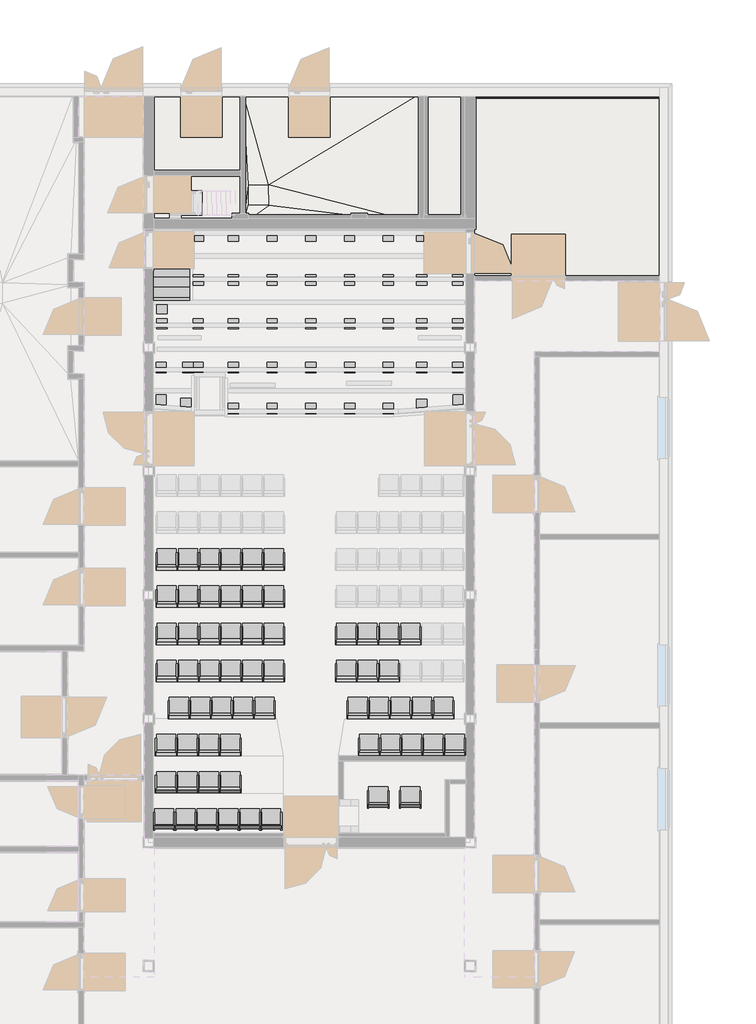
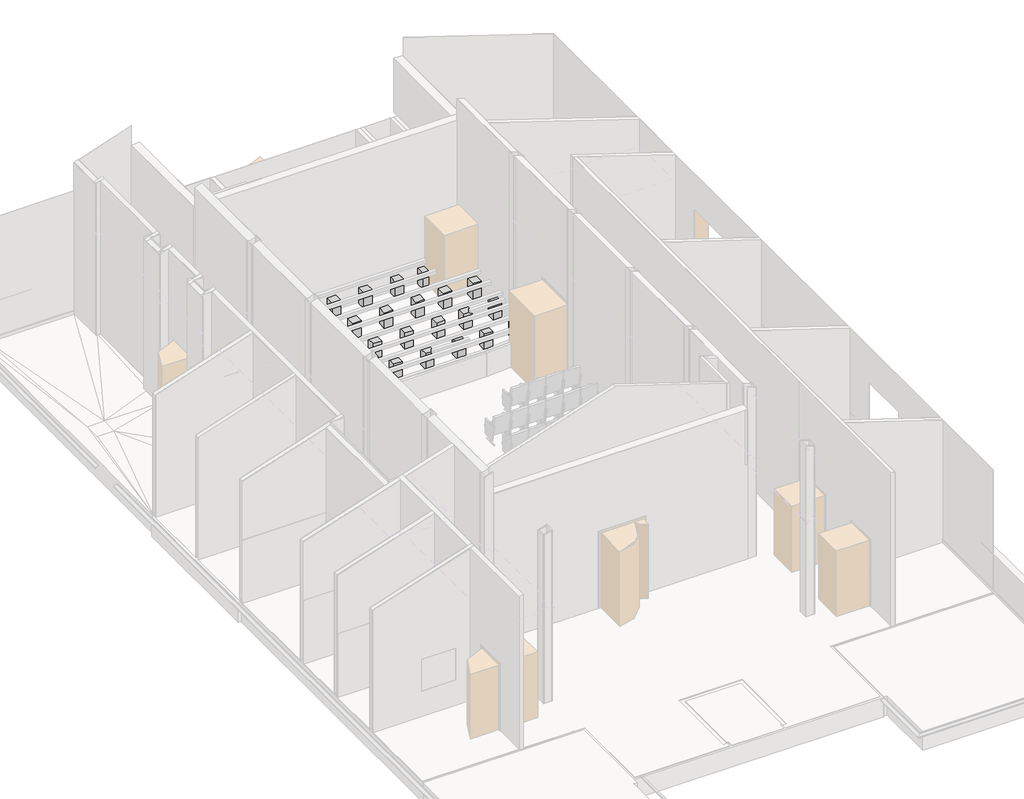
# One storey, part 11 of 12: 62 proxies, 45 columns, 4 slabs, 1 covering, 1 stair.
"""IFC4 building model written with IfcOpenShell, lengths in millimetres."""

from ifc_helpers import new_model, si_unit, frame, origin, place, context, project, spatial, polyline, outline, extrude, faceted_brep, transform, mapped, element, save
from components import mechanical_equipment_249a26df, stair_94473a12

model = new_model("IFC4")

# Units and contexts
model_context = context("Model", 3, world=origin())
ifc_project = project(units=[si_unit("LENGTHUNIT", "METRE", prefix="MILLI")], contexts=[model_context])

# Site, building, storey
site = spatial("IfcSite", under=ifc_project)
building = spatial("IfcBuilding", under=site)
storey = spatial("IfcBuildingStorey", under=building, Name="Этаж 01", Elevation=0.0)

# Proxies
placement = place(None, origin())
mechanical_equipment_shape = mechanical_equipment_249a26df(model_context)
element("IfcBuildingElementProxy", 1, Name="Кресло_для_Зрительного_Зала_откидное : Кресло для зрительного зала", ObjectType="Кресло_для_Зрительного_Зала_откидное : Кресло для зрительного зала", at=placement, inside=storey, context=model_context, shape_type="MappedRepresentation", body=[
    mapped(mechanical_equipment_shape, transform((4935.7752906, 15800.5218566, 0.0), x_axis=(0.0, 1.0, 0.0), y_axis=(-1.0, 0.0, 0.0), z_axis=(0.0, 0.0, 1.0))),
])
element("IfcBuildingElementProxy", 2, Name="Кресло_для_Зрительного_Зала_откидное : Кресло для зрительного зала", ObjectType="Кресло_для_Зрительного_Зала_откидное : Кресло для зрительного зала", at=placement, inside=storey, context=model_context, shape_type="MappedRepresentation", body=[
    mapped(mechanical_equipment_shape, transform((5455.4869141, 15800.5218566, 0.0), x_axis=(0.0, 1.0, 0.0), y_axis=(-1.0, 0.0, 0.0), z_axis=(0.0, 0.0, 1.0))),
])
element("IfcBuildingElementProxy", 3, Name="Кресло_для_Зрительного_Зала_откидное : Кресло для зрительного зала", ObjectType="Кресло_для_Зрительного_Зала_откидное : Кресло для зрительного зала", at=placement, inside=storey, context=model_context, shape_type="MappedRepresentation", body=[
    mapped(mechanical_equipment_shape, transform((5975.1985376, 15800.5218566, 0.0), x_axis=(0.0, 1.0, 0.0), y_axis=(-1.0, 0.0, 0.0), z_axis=(0.0, 0.0, 1.0))),
])
element("IfcBuildingElementProxy", 4, Name="Кресло_для_Зрительного_Зала_откидное : Кресло для зрительного зала", ObjectType="Кресло_для_Зрительного_Зала_откидное : Кресло для зрительного зала", at=placement, inside=storey, context=model_context, shape_type="MappedRepresentation", body=[
    mapped(mechanical_equipment_shape, transform((6494.9101612, 15800.5218566, 0.0), x_axis=(0.0, 1.0, 0.0), y_axis=(-1.0, 0.0, 0.0), z_axis=(0.0, 0.0, 1.0))),
])
element("IfcBuildingElementProxy", 5, Name="Кресло_для_Зрительного_Зала_откидное : Кресло для зрительного зала", ObjectType="Кресло_для_Зрительного_Зала_откидное : Кресло для зрительного зала", at=placement, inside=storey, context=model_context, shape_type="MappedRepresentation", body=[
    mapped(mechanical_equipment_shape, transform((7014.6217847, 15800.5218566, 0.0), x_axis=(0.0, 1.0, 0.0), y_axis=(-1.0, 0.0, 0.0), z_axis=(0.0, 0.0, 1.0))),
])
element("IfcBuildingElementProxy", 6, Name="Кресло_для_Зрительного_Зала_откидное : Кресло для зрительного зала", ObjectType="Кресло_для_Зрительного_Зала_откидное : Кресло для зрительного зала", at=placement, inside=storey, context=model_context, shape_type="MappedRepresentation", body=[
    mapped(mechanical_equipment_shape, transform((7534.3334082, 15800.5218566, 0.0), x_axis=(0.0, 1.0, 0.0), y_axis=(-1.0, 0.0, 0.0), z_axis=(0.0, 0.0, 1.0))),
])
element("IfcBuildingElementProxy", 7, Name="Кресло_для_Зрительного_Зала_откидное : Кресло для зрительного зала", ObjectType="Кресло_для_Зрительного_Зала_откидное : Кресло для зрительного зала", at=placement, inside=storey, context=model_context, shape_type="MappedRepresentation", body=[
    mapped(mechanical_equipment_shape, transform((4935.7752906, 14900.5218566, 0.0), x_axis=(0.0, 1.0, 0.0), y_axis=(-1.0, 0.0, 0.0), z_axis=(0.0, 0.0, 1.0))),
])
element("IfcBuildingElementProxy", 8, Name="Кресло_для_Зрительного_Зала_откидное : Кресло для зрительного зала", ObjectType="Кресло_для_Зрительного_Зала_откидное : Кресло для зрительного зала", at=placement, inside=storey, context=model_context, shape_type="MappedRepresentation", body=[
    mapped(mechanical_equipment_shape, transform((5455.4869141, 14900.5218566, 0.0), x_axis=(0.0, 1.0, 0.0), y_axis=(-1.0, 0.0, 0.0), z_axis=(0.0, 0.0, 1.0))),
])
element("IfcBuildingElementProxy", 9, Name="Кресло_для_Зрительного_Зала_откидное : Кресло для зрительного зала", ObjectType="Кресло_для_Зрительного_Зала_откидное : Кресло для зрительного зала", at=placement, inside=storey, context=model_context, shape_type="MappedRepresentation", body=[
    mapped(mechanical_equipment_shape, transform((5975.1985376, 14900.5218566, 0.0), x_axis=(0.0, 1.0, 0.0), y_axis=(-1.0, 0.0, 0.0), z_axis=(0.0, 0.0, 1.0))),
])
element("IfcBuildingElementProxy", 10, Name="Кресло_для_Зрительного_Зала_откидное : Кресло для зрительного зала", ObjectType="Кресло_для_Зрительного_Зала_откидное : Кресло для зрительного зала", at=placement, inside=storey, context=model_context, shape_type="MappedRepresentation", body=[
    mapped(mechanical_equipment_shape, transform((6494.9101612, 14900.5218566, 0.0), x_axis=(0.0, 1.0, 0.0), y_axis=(-1.0, 0.0, 0.0), z_axis=(0.0, 0.0, 1.0))),
])
element("IfcBuildingElementProxy", 11, Name="Кресло_для_Зрительного_Зала_откидное : Кресло для зрительного зала", ObjectType="Кресло_для_Зрительного_Зала_откидное : Кресло для зрительного зала", at=placement, inside=storey, context=model_context, shape_type="MappedRepresentation", body=[
    mapped(mechanical_equipment_shape, transform((7014.6217847, 14900.5218566, 0.0), x_axis=(0.0, 1.0, 0.0), y_axis=(-1.0, 0.0, 0.0), z_axis=(0.0, 0.0, 1.0))),
])
element("IfcBuildingElementProxy", 12, Name="Кресло_для_Зрительного_Зала_откидное : Кресло для зрительного зала", ObjectType="Кресло_для_Зрительного_Зала_откидное : Кресло для зрительного зала", at=placement, inside=storey, context=model_context, shape_type="MappedRepresentation", body=[
    mapped(mechanical_equipment_shape, transform((7534.3334082, 14900.5218566, 0.0), x_axis=(0.0, 1.0, 0.0), y_axis=(-1.0, 0.0, 0.0), z_axis=(0.0, 0.0, 1.0))),
])
element("IfcBuildingElementProxy", 13, Name="Кресло_для_Зрительного_Зала_откидное : Кресло для зрительного зала", ObjectType="Кресло_для_Зрительного_Зала_откидное : Кресло для зрительного зала", at=placement, inside=storey, context=model_context, shape_type="MappedRepresentation", body=[
    mapped(mechanical_equipment_shape, transform((4935.7752906, 14000.5218566, 0.0), x_axis=(0.0, 1.0, 0.0), y_axis=(-1.0, 0.0, 0.0), z_axis=(0.0, 0.0, 1.0))),
])
element("IfcBuildingElementProxy", 14, Name="Кресло_для_Зрительного_Зала_откидное : Кресло для зрительного зала", ObjectType="Кресло_для_Зрительного_Зала_откидное : Кресло для зрительного зала", at=placement, inside=storey, context=model_context, shape_type="MappedRepresentation", body=[
    mapped(mechanical_equipment_shape, transform((5455.4869141, 14000.5218566, 0.0), x_axis=(0.0, 1.0, 0.0), y_axis=(-1.0, 0.0, 0.0), z_axis=(0.0, 0.0, 1.0))),
])
element("IfcBuildingElementProxy", 15, Name="Кресло_для_Зрительного_Зала_откидное : Кресло для зрительного зала", ObjectType="Кресло_для_Зрительного_Зала_откидное : Кресло для зрительного зала", at=placement, inside=storey, context=model_context, shape_type="MappedRepresentation", body=[
    mapped(mechanical_equipment_shape, transform((5975.1985376, 14000.5218566, 0.0), x_axis=(0.0, 1.0, 0.0), y_axis=(-1.0, 0.0, 0.0), z_axis=(0.0, 0.0, 1.0))),
])
element("IfcBuildingElementProxy", 16, Name="Кресло_для_Зрительного_Зала_откидное : Кресло для зрительного зала", ObjectType="Кресло_для_Зрительного_Зала_откидное : Кресло для зрительного зала", at=placement, inside=storey, context=model_context, shape_type="MappedRepresentation", body=[
    mapped(mechanical_equipment_shape, transform((6494.9101612, 14000.5218566, 0.0), x_axis=(0.0, 1.0, 0.0), y_axis=(-1.0, 0.0, 0.0), z_axis=(0.0, 0.0, 1.0))),
])
element("IfcBuildingElementProxy", 17, Name="Кресло_для_Зрительного_Зала_откидное : Кресло для зрительного зала", ObjectType="Кресло_для_Зрительного_Зала_откидное : Кресло для зрительного зала", at=placement, inside=storey, context=model_context, shape_type="MappedRepresentation", body=[
    mapped(mechanical_equipment_shape, transform((7014.6217847, 14000.5218566, 0.0), x_axis=(0.0, 1.0, 0.0), y_axis=(-1.0, 0.0, 0.0), z_axis=(0.0, 0.0, 1.0))),
])
element("IfcBuildingElementProxy", 18, Name="Кресло_для_Зрительного_Зала_откидное : Кресло для зрительного зала", ObjectType="Кресло_для_Зрительного_Зала_откидное : Кресло для зрительного зала", at=placement, inside=storey, context=model_context, shape_type="MappedRepresentation", body=[
    mapped(mechanical_equipment_shape, transform((7534.3334082, 14000.5218566, 0.0), x_axis=(0.0, 1.0, 0.0), y_axis=(-1.0, 0.0, 0.0), z_axis=(0.0, 0.0, 1.0))),
])
element("IfcBuildingElementProxy", 19, Name="Кресло_для_Зрительного_Зала_откидное : Кресло для зрительного зала", ObjectType="Кресло_для_Зрительного_Зала_откидное : Кресло для зрительного зала", at=placement, inside=storey, context=model_context, shape_type="MappedRepresentation", body=[
    mapped(mechanical_equipment_shape, transform((4935.7752906, 13100.5218566, 0.0), x_axis=(0.0, 1.0, 0.0), y_axis=(-1.0, 0.0, 0.0), z_axis=(0.0, 0.0, 1.0))),
])
element("IfcBuildingElementProxy", 20, Name="Кресло_для_Зрительного_Зала_откидное : Кресло для зрительного зала", ObjectType="Кресло_для_Зрительного_Зала_откидное : Кресло для зрительного зала", at=placement, inside=storey, context=model_context, shape_type="MappedRepresentation", body=[
    mapped(mechanical_equipment_shape, transform((5455.4869141, 13100.5218566, 0.0), x_axis=(0.0, 1.0, 0.0), y_axis=(-1.0, 0.0, 0.0), z_axis=(0.0, 0.0, 1.0))),
])
element("IfcBuildingElementProxy", 21, Name="Кресло_для_Зрительного_Зала_откидное : Кресло для зрительного зала", ObjectType="Кресло_для_Зрительного_Зала_откидное : Кресло для зрительного зала", at=placement, inside=storey, context=model_context, shape_type="MappedRepresentation", body=[
    mapped(mechanical_equipment_shape, transform((5975.1985376, 13100.5218566, 0.0), x_axis=(0.0, 1.0, 0.0), y_axis=(-1.0, 0.0, 0.0), z_axis=(0.0, 0.0, 1.0))),
])
element("IfcBuildingElementProxy", 22, Name="Кресло_для_Зрительного_Зала_откидное : Кресло для зрительного зала", ObjectType="Кресло_для_Зрительного_Зала_откидное : Кресло для зрительного зала", at=placement, inside=storey, context=model_context, shape_type="MappedRepresentation", body=[
    mapped(mechanical_equipment_shape, transform((6494.9101612, 13100.5218566, 0.0), x_axis=(0.0, 1.0, 0.0), y_axis=(-1.0, 0.0, 0.0), z_axis=(0.0, 0.0, 1.0))),
])
element("IfcBuildingElementProxy", 23, Name="Кресло_для_Зрительного_Зала_откидное : Кресло для зрительного зала", ObjectType="Кресло_для_Зрительного_Зала_откидное : Кресло для зрительного зала", at=placement, inside=storey, context=model_context, shape_type="MappedRepresentation", body=[
    mapped(mechanical_equipment_shape, transform((7014.6217847, 13100.5218566, 0.0), x_axis=(0.0, 1.0, 0.0), y_axis=(-1.0, 0.0, 0.0), z_axis=(0.0, 0.0, 1.0))),
])
element("IfcBuildingElementProxy", 24, Name="Кресло_для_Зрительного_Зала_откидное : Кресло для зрительного зала", ObjectType="Кресло_для_Зрительного_Зала_откидное : Кресло для зрительного зала", at=placement, inside=storey, context=model_context, shape_type="MappedRepresentation", body=[
    mapped(mechanical_equipment_shape, transform((7534.3334082, 13100.5218566, 0.0), x_axis=(0.0, 1.0, 0.0), y_axis=(-1.0, 0.0, 0.0), z_axis=(0.0, 0.0, 1.0))),
])
element("IfcBuildingElementProxy", 25, Name="Кресло_для_Зрительного_Зала_откидное : Кресло для зрительного зала", ObjectType="Кресло_для_Зрительного_Зала_откидное : Кресло для зрительного зала", at=placement, inside=storey, context=model_context, shape_type="MappedRepresentation", body=[
    mapped(mechanical_equipment_shape, transform((5231.2293899, 12201.0740543, 0.0), x_axis=(0.0, 1.0, 0.0), y_axis=(-1.0, 0.0, 0.0), z_axis=(0.0, 0.0, 1.0))),
])
element("IfcBuildingElementProxy", 26, Name="Кресло_для_Зрительного_Зала_откидное : Кресло для зрительного зала", ObjectType="Кресло_для_Зрительного_Зала_откидное : Кресло для зрительного зала", at=placement, inside=storey, context=model_context, shape_type="MappedRepresentation", body=[
    mapped(mechanical_equipment_shape, transform((5750.9410134, 12201.0740543, 0.0), x_axis=(0.0, 1.0, 0.0), y_axis=(-1.0, 0.0, 0.0), z_axis=(0.0, 0.0, 1.0))),
])
element("IfcBuildingElementProxy", 27, Name="Кресло_для_Зрительного_Зала_откидное : Кресло для зрительного зала", ObjectType="Кресло_для_Зрительного_Зала_откидное : Кресло для зрительного зала", at=placement, inside=storey, context=model_context, shape_type="MappedRepresentation", body=[
    mapped(mechanical_equipment_shape, transform((6270.652637, 12201.0740543, 0.0), x_axis=(0.0, 1.0, 0.0), y_axis=(-1.0, 0.0, 0.0), z_axis=(0.0, 0.0, 1.0))),
])
element("IfcBuildingElementProxy", 28, Name="Кресло_для_Зрительного_Зала_откидное : Кресло для зрительного зала", ObjectType="Кресло_для_Зрительного_Зала_откидное : Кресло для зрительного зала", at=placement, inside=storey, context=model_context, shape_type="MappedRepresentation", body=[
    mapped(mechanical_equipment_shape, transform((6790.3642605, 12201.0740543, 0.0), x_axis=(0.0, 1.0, 0.0), y_axis=(-1.0, 0.0, 0.0), z_axis=(0.0, 0.0, 1.0))),
])
element("IfcBuildingElementProxy", 29, Name="Кресло_для_Зрительного_Зала_откидное : Кресло для зрительного зала", ObjectType="Кресло_для_Зрительного_Зала_откидное : Кресло для зрительного зала", at=placement, inside=storey, context=model_context, shape_type="MappedRepresentation", body=[
    mapped(mechanical_equipment_shape, transform((7310.075884, 12201.0740543, 0.0), x_axis=(0.0, 1.0, 0.0), y_axis=(-1.0, 0.0, 0.0), z_axis=(0.0, 0.0, 1.0))),
])
element("IfcBuildingElementProxy", 30, Name="Кресло_для_Зрительного_Зала_откидное : Кресло для зрительного зала", ObjectType="Кресло_для_Зрительного_Зала_откидное : Кресло для зрительного зала", at=placement, inside=storey, context=model_context, shape_type="MappedRepresentation", body=[
    mapped(mechanical_equipment_shape, transform((9571.2293899, 12201.0740543, 0.0), x_axis=(0.0, 1.0, 0.0), y_axis=(-1.0, 0.0, 0.0), z_axis=(0.0, 0.0, 1.0))),
])
element("IfcBuildingElementProxy", 31, Name="Кресло_для_Зрительного_Зала_откидное : Кресло для зрительного зала", ObjectType="Кресло_для_Зрительного_Зала_откидное : Кресло для зрительного зала", at=placement, inside=storey, context=model_context, shape_type="MappedRepresentation", body=[
    mapped(mechanical_equipment_shape, transform((10090.9410134, 12201.0740543, 0.0), x_axis=(0.0, 1.0, 0.0), y_axis=(-1.0, 0.0, 0.0), z_axis=(0.0, 0.0, 1.0))),
])
element("IfcBuildingElementProxy", 32, Name="Кресло_для_Зрительного_Зала_откидное : Кресло для зрительного зала", ObjectType="Кресло_для_Зрительного_Зала_откидное : Кресло для зрительного зала", at=placement, inside=storey, context=model_context, shape_type="MappedRepresentation", body=[
    mapped(mechanical_equipment_shape, transform((10610.652637, 12201.0740543, 0.0), x_axis=(0.0, 1.0, 0.0), y_axis=(-1.0, 0.0, 0.0), z_axis=(0.0, 0.0, 1.0))),
])
element("IfcBuildingElementProxy", 33, Name="Кресло_для_Зрительного_Зала_откидное : Кресло для зрительного зала", ObjectType="Кресло_для_Зрительного_Зала_откидное : Кресло для зрительного зала", at=placement, inside=storey, context=model_context, shape_type="MappedRepresentation", body=[
    mapped(mechanical_equipment_shape, transform((11130.3642605, 12201.0740543, 0.0), x_axis=(0.0, 1.0, 0.0), y_axis=(-1.0, 0.0, 0.0), z_axis=(0.0, 0.0, 1.0))),
])
element("IfcBuildingElementProxy", 34, Name="Кресло_для_Зрительного_Зала_откидное : Кресло для зрительного зала", ObjectType="Кресло_для_Зрительного_Зала_откидное : Кресло для зрительного зала", at=placement, inside=storey, context=model_context, shape_type="MappedRepresentation", body=[
    mapped(mechanical_equipment_shape, transform((11650.075884, 12201.0740543, 0.0), x_axis=(0.0, 1.0, 0.0), y_axis=(-1.0, 0.0, 0.0), z_axis=(0.0, 0.0, 1.0))),
])
element("IfcBuildingElementProxy", 35, Name="Кресло_для_Зрительного_Зала_откидное : Кресло для зрительного зала", ObjectType="Кресло_для_Зрительного_Зала_откидное : Кресло для зрительного зала", at=placement, inside=storey, context=model_context, shape_type="MappedRepresentation", body=[
    mapped(mechanical_equipment_shape, transform((9291.069541, 13999.7169523, 0.0), x_axis=(0.0, 1.0, 0.0), y_axis=(-1.0, 0.0, 0.0), z_axis=(0.0, 0.0, 1.0))),
])
element("IfcBuildingElementProxy", 36, Name="Кресло_для_Зрительного_Зала_откидное : Кресло для зрительного зала", ObjectType="Кресло_для_Зрительного_Зала_откидное : Кресло для зрительного зала", at=placement, inside=storey, context=model_context, shape_type="MappedRepresentation", body=[
    mapped(mechanical_equipment_shape, transform((9810.7811645, 13999.7169523, 0.0), x_axis=(0.0, 1.0, 0.0), y_axis=(-1.0, 0.0, 0.0), z_axis=(0.0, 0.0, 1.0))),
])
element("IfcBuildingElementProxy", 37, Name="Кресло_для_Зрительного_Зала_откидное : Кресло для зрительного зала", ObjectType="Кресло_для_Зрительного_Зала_откидное : Кресло для зрительного зала", at=placement, inside=storey, context=model_context, shape_type="MappedRepresentation", body=[
    mapped(mechanical_equipment_shape, transform((10330.4927881, 13999.7169523, 0.0), x_axis=(0.0, 1.0, 0.0), y_axis=(-1.0, 0.0, 0.0), z_axis=(0.0, 0.0, 1.0))),
])
element("IfcBuildingElementProxy", 38, Name="Кресло_для_Зрительного_Зала_откидное : Кресло для зрительного зала", ObjectType="Кресло_для_Зрительного_Зала_откидное : Кресло для зрительного зала", at=placement, inside=storey, context=model_context, shape_type="MappedRepresentation", body=[
    mapped(mechanical_equipment_shape, transform((10850.2044116, 13999.7169523, 0.0), x_axis=(0.0, 1.0, 0.0), y_axis=(-1.0, 0.0, 0.0), z_axis=(0.0, 0.0, 1.0))),
])
element("IfcBuildingElementProxy", 39, Name="Кресло_для_Зрительного_Зала_откидное : Кресло для зрительного зала", ObjectType="Кресло_для_Зрительного_Зала_откидное : Кресло для зрительного зала", at=placement, inside=storey, context=model_context, shape_type="MappedRepresentation", body=[
    mapped(mechanical_equipment_shape, transform((9291.069541, 13099.7169523, 0.0), x_axis=(0.0, 1.0, 0.0), y_axis=(-1.0, 0.0, 0.0), z_axis=(0.0, 0.0, 1.0))),
])
element("IfcBuildingElementProxy", 40, Name="Кресло_для_Зрительного_Зала_откидное : Кресло для зрительного зала", ObjectType="Кресло_для_Зрительного_Зала_откидное : Кресло для зрительного зала", at=placement, inside=storey, context=model_context, shape_type="MappedRepresentation", body=[
    mapped(mechanical_equipment_shape, transform((9810.7811645, 13099.7169523, 0.0), x_axis=(0.0, 1.0, 0.0), y_axis=(-1.0, 0.0, 0.0), z_axis=(0.0, 0.0, 1.0))),
])
element("IfcBuildingElementProxy", 41, Name="Кресло_для_Зрительного_Зала_откидное : Кресло для зрительного зала", ObjectType="Кресло_для_Зрительного_Зала_откидное : Кресло для зрительного зала", at=placement, inside=storey, context=model_context, shape_type="MappedRepresentation", body=[
    mapped(mechanical_equipment_shape, transform((10330.4927881, 13099.7169523, 0.0), x_axis=(0.0, 1.0, 0.0), y_axis=(-1.0, 0.0, 0.0), z_axis=(0.0, 0.0, 1.0))),
])
element("IfcBuildingElementProxy", 42, Name="Кресло_для_Зрительного_Зала_откидное : Кресло для зрительного зала", ObjectType="Кресло_для_Зрительного_Зала_откидное : Кресло для зрительного зала", at=placement, inside=storey, context=model_context, shape_type="MappedRepresentation", body=[
    mapped(mechanical_equipment_shape, transform((4921.2421543, 11300.8057528, 180.0), x_axis=(0.0, 1.0, 0.0), y_axis=(-1.0, 0.0, 0.0), z_axis=(0.0, 0.0, 1.0))),
])
element("IfcBuildingElementProxy", 43, Name="Кресло_для_Зрительного_Зала_откидное : Кресло для зрительного зала", ObjectType="Кресло_для_Зрительного_Зала_откидное : Кресло для зрительного зала", at=placement, inside=storey, context=model_context, shape_type="MappedRepresentation", body=[
    mapped(mechanical_equipment_shape, transform((5440.9537779, 11300.8057528, 180.0), x_axis=(0.0, 1.0, 0.0), y_axis=(-1.0, 0.0, 0.0), z_axis=(0.0, 0.0, 1.0))),
])
element("IfcBuildingElementProxy", 44, Name="Кресло_для_Зрительного_Зала_откидное : Кресло для зрительного зала", ObjectType="Кресло_для_Зрительного_Зала_откидное : Кресло для зрительного зала", at=placement, inside=storey, context=model_context, shape_type="MappedRepresentation", body=[
    mapped(mechanical_equipment_shape, transform((5960.6654014, 11300.8057528, 180.0), x_axis=(0.0, 1.0, 0.0), y_axis=(-1.0, 0.0, 0.0), z_axis=(0.0, 0.0, 1.0))),
])
element("IfcBuildingElementProxy", 45, Name="Кресло_для_Зрительного_Зала_откидное : Кресло для зрительного зала", ObjectType="Кресло_для_Зрительного_Зала_откидное : Кресло для зрительного зала", at=placement, inside=storey, context=model_context, shape_type="MappedRepresentation", body=[
    mapped(mechanical_equipment_shape, transform((6480.3770249, 11300.8057528, 180.0), x_axis=(0.0, 1.0, 0.0), y_axis=(-1.0, 0.0, 0.0), z_axis=(0.0, 0.0, 1.0))),
])
element("IfcBuildingElementProxy", 46, Name="Кресло_для_Зрительного_Зала_откидное : Кресло для зрительного зала", ObjectType="Кресло_для_Зрительного_Зала_откидное : Кресло для зрительного зала", at=placement, inside=storey, context=model_context, shape_type="MappedRepresentation", body=[
    mapped(mechanical_equipment_shape, transform((4921.2421543, 10400.2691499, 360.0), x_axis=(0.0, 1.0, 0.0), y_axis=(-1.0, 0.0, 0.0), z_axis=(0.0, 0.0, 1.0))),
])
element("IfcBuildingElementProxy", 47, Name="Кресло_для_Зрительного_Зала_откидное : Кресло для зрительного зала", ObjectType="Кресло_для_Зрительного_Зала_откидное : Кресло для зрительного зала", at=placement, inside=storey, context=model_context, shape_type="MappedRepresentation", body=[
    mapped(mechanical_equipment_shape, transform((5440.9537779, 10400.2691499, 360.0), x_axis=(0.0, 1.0, 0.0), y_axis=(-1.0, 0.0, 0.0), z_axis=(0.0, 0.0, 1.0))),
])
element("IfcBuildingElementProxy", 48, Name="Кресло_для_Зрительного_Зала_откидное : Кресло для зрительного зала", ObjectType="Кресло_для_Зрительного_Зала_откидное : Кресло для зрительного зала", at=placement, inside=storey, context=model_context, shape_type="MappedRepresentation", body=[
    mapped(mechanical_equipment_shape, transform((5960.6654014, 10400.2691499, 360.0), x_axis=(0.0, 1.0, 0.0), y_axis=(-1.0, 0.0, 0.0), z_axis=(0.0, 0.0, 1.0))),
])
element("IfcBuildingElementProxy", 49, Name="Кресло_для_Зрительного_Зала_откидное : Кресло для зрительного зала", ObjectType="Кресло_для_Зрительного_Зала_откидное : Кресло для зрительного зала", at=placement, inside=storey, context=model_context, shape_type="MappedRepresentation", body=[
    mapped(mechanical_equipment_shape, transform((6480.3770249, 10400.2691499, 360.0), x_axis=(0.0, 1.0, 0.0), y_axis=(-1.0, 0.0, 0.0), z_axis=(0.0, 0.0, 1.0))),
])
element("IfcBuildingElementProxy", 50, Name="Кресло_для_Зрительного_Зала_откидное : Кресло для зрительного зала", ObjectType="Кресло_для_Зрительного_Зала_откидное : Кресло для зрительного зала", at=placement, inside=storey, context=model_context, shape_type="MappedRepresentation", body=[
    mapped(mechanical_equipment_shape, transform((4872.9585632, 9501.7539586, 540.0), x_axis=(0.0, 1.0, 0.0), y_axis=(-1.0, 0.0, 0.0), z_axis=(0.0, 0.0, 1.0))),
])
element("IfcBuildingElementProxy", 51, Name="Кресло_для_Зрительного_Зала_откидное : Кресло для зрительного зала", ObjectType="Кресло_для_Зрительного_Зала_откидное : Кресло для зрительного зала", at=placement, inside=storey, context=model_context, shape_type="MappedRepresentation", body=[
    mapped(mechanical_equipment_shape, transform((5392.6701868, 9501.7539586, 540.0), x_axis=(0.0, 1.0, 0.0), y_axis=(-1.0, 0.0, 0.0), z_axis=(0.0, 0.0, 1.0))),
])
element("IfcBuildingElementProxy", 52, Name="Кресло_для_Зрительного_Зала_откидное : Кресло для зрительного зала", ObjectType="Кресло_для_Зрительного_Зала_откидное : Кресло для зрительного зала", at=placement, inside=storey, context=model_context, shape_type="MappedRepresentation", body=[
    mapped(mechanical_equipment_shape, transform((5912.3818103, 9501.7539586, 540.0), x_axis=(0.0, 1.0, 0.0), y_axis=(-1.0, 0.0, 0.0), z_axis=(0.0, 0.0, 1.0))),
])
element("IfcBuildingElementProxy", 53, Name="Кресло_для_Зрительного_Зала_откидное : Кресло для зрительного зала", ObjectType="Кресло_для_Зрительного_Зала_откидное : Кресло для зрительного зала", at=placement, inside=storey, context=model_context, shape_type="MappedRepresentation", body=[
    mapped(mechanical_equipment_shape, transform((6432.0934338, 9501.7539586, 540.0), x_axis=(0.0, 1.0, 0.0), y_axis=(-1.0, 0.0, 0.0), z_axis=(0.0, 0.0, 1.0))),
])
element("IfcBuildingElementProxy", 54, Name="Кресло_для_Зрительного_Зала_откидное : Кресло для зрительного зала", ObjectType="Кресло_для_Зрительного_Зала_откидное : Кресло для зрительного зала", at=placement, inside=storey, context=model_context, shape_type="MappedRepresentation", body=[
    mapped(mechanical_equipment_shape, transform((6951.8050574, 9501.7539586, 540.0), x_axis=(0.0, 1.0, 0.0), y_axis=(-1.0, 0.0, 0.0), z_axis=(0.0, 0.0, 1.0))),
])
element("IfcBuildingElementProxy", 55, Name="Кресло_для_Зрительного_Зала_откидное : Кресло для зрительного зала", ObjectType="Кресло_для_Зрительного_Зала_откидное : Кресло для зрительного зала", at=placement, inside=storey, context=model_context, shape_type="MappedRepresentation", body=[
    mapped(mechanical_equipment_shape, transform((7471.5166809, 9501.7539586, 540.0), x_axis=(0.0, 1.0, 0.0), y_axis=(-1.0, 0.0, 0.0), z_axis=(0.0, 0.0, 1.0))),
])
element("IfcBuildingElementProxy", 56, Name="Кресло_для_Зрительного_Зала_откидное : Кресло для зрительного зала", ObjectType="Кресло_для_Зрительного_Зала_откидное : Кресло для зрительного зала", at=placement, inside=storey, context=model_context, shape_type="MappedRepresentation", body=[
    mapped(mechanical_equipment_shape, transform((9845.5808381, 11301.0740543, 180.0), x_axis=(0.0, 1.0, 0.0), y_axis=(-1.0, 0.0, 0.0), z_axis=(0.0, 0.0, 1.0))),
])
element("IfcBuildingElementProxy", 57, Name="Кресло_для_Зрительного_Зала_откидное : Кресло для зрительного зала", ObjectType="Кресло_для_Зрительного_Зала_откидное : Кресло для зрительного зала", at=placement, inside=storey, context=model_context, shape_type="MappedRepresentation", body=[
    mapped(mechanical_equipment_shape, transform((10365.2924616, 11301.0740543, 180.0), x_axis=(0.0, 1.0, 0.0), y_axis=(-1.0, 0.0, 0.0), z_axis=(0.0, 0.0, 1.0))),
])
element("IfcBuildingElementProxy", 58, Name="Кресло_для_Зрительного_Зала_откидное : Кресло для зрительного зала", ObjectType="Кресло_для_Зрительного_Зала_откидное : Кресло для зрительного зала", at=placement, inside=storey, context=model_context, shape_type="MappedRepresentation", body=[
    mapped(mechanical_equipment_shape, transform((10885.0040852, 11301.0740543, 180.0), x_axis=(0.0, 1.0, 0.0), y_axis=(-1.0, 0.0, 0.0), z_axis=(0.0, 0.0, 1.0))),
])
element("IfcBuildingElementProxy", 59, Name="Кресло_для_Зрительного_Зала_откидное : Кресло для зрительного зала", ObjectType="Кресло_для_Зрительного_Зала_откидное : Кресло для зрительного зала", at=placement, inside=storey, context=model_context, shape_type="MappedRepresentation", body=[
    mapped(mechanical_equipment_shape, transform((11404.7157087, 11301.0740543, 180.0), x_axis=(0.0, 1.0, 0.0), y_axis=(-1.0, 0.0, 0.0), z_axis=(0.0, 0.0, 1.0))),
])
element("IfcBuildingElementProxy", 60, Name="Кресло_для_Зрительного_Зала_откидное : Кресло для зрительного зала", ObjectType="Кресло_для_Зрительного_Зала_откидное : Кресло для зрительного зала", at=placement, inside=storey, context=model_context, shape_type="MappedRepresentation", body=[
    mapped(mechanical_equipment_shape, transform((11924.4273323, 11301.0740543, 180.0), x_axis=(0.0, 1.0, 0.0), y_axis=(-1.0, 0.0, 0.0), z_axis=(0.0, 0.0, 1.0))),
])
element("IfcBuildingElementProxy", 61, Name="Кресло_для_Зрительного_Зала_откидное : Кресло для зрительного зала", ObjectType="Кресло_для_Зрительного_Зала_откидное : Кресло для зрительного зала", at=placement, inside=storey, context=model_context, shape_type="MappedRepresentation", body=[
    mapped(mechanical_equipment_shape, transform((10070.5282956, 10025.3336284, 540.0), x_axis=(0.0, 1.0, 0.0), y_axis=(-1.0, 0.0, 0.0), z_axis=(0.0, 0.0, 1.0))),
])
element("IfcBuildingElementProxy", 62, Name="Кресло_для_Зрительного_Зала_откидное : Кресло для зрительного зала", ObjectType="Кресло_для_Зрительного_Зала_откидное : Кресло для зрительного зала", at=placement, inside=storey, context=model_context, shape_type="MappedRepresentation", body=[
    mapped(mechanical_equipment_shape, transform((10844.259683, 10025.3336284, 540.0), x_axis=(0.0, 1.0, 0.0), y_axis=(-1.0, 0.0, 0.0), z_axis=(0.0, 0.0, 1.0))),
])

# Columns
element("IfcColumn", 63, ObjectType="ADSK_Колонна_Прямоугольная : 250х250", at=placement, inside=storey, context=model_context, shape_type="SweptSolid", body=[
    extrude(outline(polyline([(4944.9999907, 21704.9861536), (4944.9999907, 21454.9861536), (4694.9999907, 21454.9861536), (4694.9999907, 21704.9861536), (4944.9999907, 21704.9861536)])), frame((0.0, 0.0, -160.0), z_axis=(0.0, 0.0, 1.0), x_axis=(1.0, 0.0, 0.0)), (0.0, 0.0, 1.0), 650.0),
])
element("IfcColumn", 64, ObjectType="ADSK_Колонна_Прямоугольная : 250х250", at=placement, inside=storey, context=model_context, shape_type="SweptSolid", body=[
    extrude(outline(polyline([(4924.9987483, 20644.9144735), (4924.9987483, 20394.9144735), (4674.9987483, 20394.9144735), (4674.9987483, 20644.9144735), (4924.9987483, 20644.9144735)])), frame((0.0, 0.0, -160.0), z_axis=(0.0, 0.0, 1.0), x_axis=(1.0, 0.0, 0.0)), (0.0, 0.0, 1.0), 650.0),
])
element("IfcColumn", 65, ObjectType="ADSK_Колонна_Прямоугольная : 250х250", at=placement, inside=storey, context=model_context, shape_type="SweptSolid", body=[
    extrude(outline(polyline([(5824.9999907, 21704.9861536), (5824.9999907, 21454.9861536), (5574.9999907, 21454.9861536), (5574.9999907, 21704.9861536), (5824.9999907, 21704.9861536)])), frame((0.0, 0.0, -160.0), z_axis=(0.0, 0.0, 1.0), x_axis=(1.0, 0.0, 0.0)), (0.0, 0.0, 1.0), 650.0),
])
element("IfcColumn", 66, ObjectType="ADSK_Колонна_Прямоугольная : 250х250", at=placement, inside=storey, context=model_context, shape_type="SweptSolid", body=[
    extrude(outline(polyline([(6680.0047797, 21704.9861536), (6680.0047797, 21454.9861536), (6430.0047797, 21454.9861536), (6430.0047797, 21704.9861536), (6680.0047797, 21704.9861536)])), frame((0.0, 0.0, -160.0), z_axis=(0.0, 0.0, 1.0), x_axis=(1.0, 0.0, 0.0)), (0.0, 0.0, 1.0), 650.0),
])
element("IfcColumn", 67, ObjectType="ADSK_Колонна_Прямоугольная : 250х250", at=placement, inside=storey, context=model_context, shape_type="SweptSolid", body=[
    extrude(outline(polyline([(7619.6854667, 21704.9861536), (7619.6854667, 21454.9861536), (7369.6854667, 21454.9861536), (7369.6854667, 21704.9861536), (7619.6854667, 21704.9861536)])), frame((0.0, 0.0, -160.0), z_axis=(0.0, 0.0, 1.0), x_axis=(1.0, 0.0, 0.0)), (0.0, 0.0, 1.0), 650.0),
])
element("IfcColumn", 68, ObjectType="ADSK_Колонна_Прямоугольная : 250х250", at=placement, inside=storey, context=model_context, shape_type="SweptSolid", body=[
    extrude(outline(polyline([(8559.8875171, 21704.9861536), (8559.8875171, 21454.9861536), (8309.8875171, 21454.9861536), (8309.8875171, 21704.9861536), (8559.8875171, 21704.9861536)])), frame((0.0, 0.0, -160.0), z_axis=(0.0, 0.0, 1.0), x_axis=(1.0, 0.0, 0.0)), (0.0, 0.0, 1.0), 650.0),
])
element("IfcColumn", 69, ObjectType="ADSK_Колонна_Прямоугольная : 250х250", at=placement, inside=storey, context=model_context, shape_type="SweptSolid", body=[
    extrude(outline(polyline([(9500.0895488, 21704.9861536), (9500.0895488, 21454.9861536), (9250.0895488, 21454.9861536), (9250.0895488, 21704.9861536), (9500.0895488, 21704.9861536)])), frame((0.0, 0.0, -160.0), z_axis=(0.0, 0.0, 1.0), x_axis=(1.0, 0.0, 0.0)), (0.0, 0.0, 1.0), 650.0),
])
element("IfcColumn", 70, ObjectType="ADSK_Колонна_Прямоугольная : 250х250", at=placement, inside=storey, context=model_context, shape_type="SweptSolid", body=[
    extrude(outline(polyline([(10440.287517, 21704.9861536), (10440.287517, 21454.9861536), (10190.287517, 21454.9861536), (10190.287517, 21704.9861536), (10440.287517, 21704.9861536)])), frame((0.0, 0.0, -160.0), z_axis=(0.0, 0.0, 1.0), x_axis=(1.0, 0.0, 0.0)), (0.0, 0.0, 1.0), 650.0),
])
element("IfcColumn", 71, ObjectType="ADSK_Колонна_Прямоугольная : 250х250", at=placement, inside=storey, context=model_context, shape_type="SweptSolid", body=[
    extrude(outline(polyline([(11250.1553259, 21704.9861536), (11250.1553259, 21454.9861536), (11000.1553259, 21454.9861536), (11000.1553259, 21704.9861536), (11250.1553259, 21704.9861536)])), frame((0.0, 0.0, -160.0), z_axis=(0.0, 0.0, 1.0), x_axis=(1.0, 0.0, 0.0)), (0.0, 0.0, 1.0), 650.0),
])
element("IfcColumn", 72, ObjectType="ADSK_Колонна_Прямоугольная : 250х250", at=placement, inside=storey, context=model_context, shape_type="SweptSolid", body=[
    extrude(outline(polyline([(12124.8012517, 21704.9861536), (12124.8012517, 21454.9861536), (11874.8012517, 21454.9861536), (11874.8012517, 21704.9861536), (12124.8012517, 21704.9861536)])), frame((0.0, 0.0, -160.0), z_axis=(0.0, 0.0, 1.0), x_axis=(1.0, 0.0, 0.0)), (0.0, 0.0, 1.0), 650.0),
])
element("IfcColumn", 73, ObjectType="ADSK_Колонна_Прямоугольная : 250х250", at=placement, inside=storey, context=model_context, shape_type="SweptSolid", body=[
    extrude(outline(polyline([(5829.6999907, 22765.0578244), (5829.6999907, 22515.0578244), (5579.6999907, 22515.0578244), (5579.6999907, 22765.0578244), (5829.6999907, 22765.0578244)])), frame((0.0, 0.0, -160.0), z_axis=(0.0, 0.0, 1.0), x_axis=(1.0, 0.0, 0.0)), (0.0, 0.0, 1.0), 650.0),
])
element("IfcColumn", 74, ObjectType="ADSK_Колонна_Прямоугольная : 250х250", at=placement, inside=storey, context=model_context, shape_type="SweptSolid", body=[
    extrude(outline(polyline([(5829.6999907, 23825.0000093), (5829.6999907, 23575.0000093), (5579.6999907, 23575.0000093), (5579.6999907, 23825.0000093), (5829.6999907, 23825.0000093)])), frame((0.0, 0.0, -160.0), z_axis=(0.0, 0.0, 1.0), x_axis=(1.0, 0.0, 0.0)), (0.0, 0.0, 1.0), 650.0),
])
element("IfcColumn", 75, ObjectType="ADSK_Колонна_Прямоугольная : 250х250", at=placement, inside=storey, context=model_context, shape_type="SweptSolid", body=[
    extrude(outline(polyline([(6680.0047797, 22765.0578244), (6680.0047797, 22515.0578244), (6430.0047797, 22515.0578244), (6430.0047797, 22765.0578244), (6680.0047797, 22765.0578244)])), frame((0.0, 0.0, -160.0), z_axis=(0.0, 0.0, 1.0), x_axis=(1.0, 0.0, 0.0)), (0.0, 0.0, 1.0), 650.0),
])
element("IfcColumn", 76, ObjectType="ADSK_Колонна_Прямоугольная : 250х250", at=placement, inside=storey, context=model_context, shape_type="SweptSolid", body=[
    extrude(outline(polyline([(6680.0047797, 23825.0000093), (6680.0047797, 23575.0000093), (6430.0047797, 23575.0000093), (6430.0047797, 23825.0000093), (6680.0047797, 23825.0000093)])), frame((0.0, 0.0, -160.0), z_axis=(0.0, 0.0, 1.0), x_axis=(1.0, 0.0, 0.0)), (0.0, 0.0, 1.0), 650.0),
])
element("IfcColumn", 77, ObjectType="ADSK_Колонна_Прямоугольная : 250х250", at=placement, inside=storey, context=model_context, shape_type="SweptSolid", body=[
    extrude(outline(polyline([(7619.1719447, 22765.0578244), (7619.1719447, 22515.0578244), (7369.1719447, 22515.0578244), (7369.1719447, 22765.0578244), (7619.1719447, 22765.0578244)])), frame((0.0, 0.0, -160.0), z_axis=(0.0, 0.0, 1.0), x_axis=(1.0, 0.0, 0.0)), (0.0, 0.0, 1.0), 650.0),
])
element("IfcColumn", 78, ObjectType="ADSK_Колонна_Прямоугольная : 250х250", at=placement, inside=storey, context=model_context, shape_type="SweptSolid", body=[
    extrude(outline(polyline([(7619.6854574, 23825.0000093), (7619.6854574, 23575.0000093), (7369.6854574, 23575.0000093), (7369.6854574, 23825.0000093), (7619.6854574, 23825.0000093)])), frame((0.0, 0.0, -160.0), z_axis=(0.0, 0.0, 1.0), x_axis=(1.0, 0.0, 0.0)), (0.0, 0.0, 1.0), 650.0),
])
element("IfcColumn", 79, ObjectType="ADSK_Колонна_Прямоугольная : 250х250", at=placement, inside=storey, context=model_context, shape_type="SweptSolid", body=[
    extrude(outline(polyline([(8559.3739857, 22765.0578244), (8559.3739857, 22515.0578244), (8309.3739857, 22515.0578244), (8309.3739857, 22765.0578244), (8559.3739857, 22765.0578244)])), frame((0.0, 0.0, -160.0), z_axis=(0.0, 0.0, 1.0), x_axis=(1.0, 0.0, 0.0)), (0.0, 0.0, 1.0), 650.0),
])
element("IfcColumn", 80, ObjectType="ADSK_Колонна_Прямоугольная : 250х250", at=placement, inside=storey, context=model_context, shape_type="SweptSolid", body=[
    extrude(outline(polyline([(8559.8874985, 23825.0000093), (8559.8874985, 23575.0000093), (8309.8874985, 23575.0000093), (8309.8874985, 23825.0000093), (8559.8874985, 23825.0000093)])), frame((0.0, 0.0, -160.0), z_axis=(0.0, 0.0, 1.0), x_axis=(1.0, 0.0, 0.0)), (0.0, 0.0, 1.0), 650.0),
])
element("IfcColumn", 81, ObjectType="ADSK_Колонна_Прямоугольная : 250х250", at=placement, inside=storey, context=model_context, shape_type="SweptSolid", body=[
    extrude(outline(polyline([(9499.3229082, 22765.0578244), (9499.3229082, 22515.0578244), (9249.3229082, 22515.0578244), (9249.3229082, 22765.0578244), (9499.3229082, 22765.0578244)])), frame((0.0, 0.0, -160.0), z_axis=(0.0, 0.0, 1.0), x_axis=(1.0, 0.0, 0.0)), (0.0, 0.0, 1.0), 650.0),
])
element("IfcColumn", 82, ObjectType="ADSK_Колонна_Прямоугольная : 250х250", at=placement, inside=storey, context=model_context, shape_type="Brep", body=[
    faceted_brep([(9499.3229082, 23825.0000093, -160.0), (9499.3229082, 23575.0000093, -160.0), (9249.3229082, 23575.0000093, -160.0), (9249.3229082, 23825.0000093, -160.0), (9499.3229082, 23825.0000093, -5.0), (9499.3229082, 23825.0000093, 490.0), (9499.3229082, 23575.0000093, 490.0), (9499.3229082, 23575.0000093, -5.0), (9249.3229082, 23575.0000093, 490.0), (9249.3229082, 23575.0000093, -5.0), (9249.3229082, 23825.0000093, 490.0), (9249.3229082, 23825.0000093, -5.0)], [[[0, 1, 2, 3]], [[1, 0, 4, 5, 6, 7]], [[2, 1, 7, 6, 8, 9]], [[3, 2, 9, 8, 10, 11]], [[0, 3, 11, 10, 5, 4]], [[6, 5, 10, 8]]]),
])
element("IfcColumn", 83, ObjectType="ADSK_Колонна_Прямоугольная : 250х250", at=placement, inside=storey, context=model_context, shape_type="SweptSolid", body=[
    extrude(outline(polyline([(10439.7740043, 22765.0578244), (10439.7740043, 22515.0578244), (10189.7740043, 22515.0578244), (10189.7740043, 22765.0578244), (10439.7740043, 22765.0578244)])), frame((0.0, 0.0, -160.0), z_axis=(0.0, 0.0, 1.0), x_axis=(1.0, 0.0, 0.0)), (0.0, 0.0, 1.0), 650.0),
])
element("IfcColumn", 84, ObjectType="ADSK_Колонна_Прямоугольная : 250х250", at=placement, inside=storey, context=model_context, shape_type="SweptSolid", body=[
    extrude(outline(polyline([(10440.287517, 23825.0000093), (10440.287517, 23575.0000093), (10190.287517, 23575.0000093), (10190.287517, 23825.0000093), (10440.287517, 23825.0000093)])), frame((0.0, 0.0, -160.0), z_axis=(0.0, 0.0, 1.0), x_axis=(1.0, 0.0, 0.0)), (0.0, 0.0, 1.0), 650.0),
])
element("IfcColumn", 85, ObjectType="ADSK_Колонна_Прямоугольная : 250х250", at=placement, inside=storey, context=model_context, shape_type="SweptSolid", body=[
    extrude(outline(polyline([(11249.6418039, 22765.0578244), (11249.6418039, 22515.0578244), (10999.6418039, 22515.0578244), (10999.6418039, 22765.0578244), (11249.6418039, 22765.0578244)])), frame((0.0, 0.0, -160.0), z_axis=(0.0, 0.0, 1.0), x_axis=(1.0, 0.0, 0.0)), (0.0, 0.0, 1.0), 650.0),
])
element("IfcColumn", 86, ObjectType="ADSK_Колонна_Прямоугольная : 250х250", at=placement, inside=storey, context=model_context, shape_type="SweptSolid", body=[
    extrude(outline(polyline([(11249.6418039, 23825.0000093), (11249.6418039, 23575.0000093), (10999.6418039, 23575.0000093), (10999.6418039, 23825.0000093), (11249.6418039, 23825.0000093)])), frame((0.0, 0.0, -160.0), z_axis=(0.0, 0.0, 1.0), x_axis=(1.0, 0.0, 0.0)), (0.0, 0.0, 1.0), 650.0),
])
element("IfcColumn", 87, ObjectType="ADSK_Колонна_Прямоугольная : 250х250", at=placement, inside=storey, context=model_context, shape_type="SweptSolid", body=[
    extrude(outline(polyline([(12124.8012517, 22765.0578244), (12124.8012517, 22515.0578244), (11874.8012517, 22515.0578244), (11874.8012517, 22765.0578244), (12124.8012517, 22765.0578244)])), frame((0.0, 0.0, -160.0), z_axis=(0.0, 0.0, 1.0), x_axis=(1.0, 0.0, 0.0)), (0.0, 0.0, 1.0), 650.0),
])
element("IfcColumn", 88, ObjectType="ADSK_Колонна_Прямоугольная : 250х250", at=placement, inside=storey, context=model_context, shape_type="SweptSolid", body=[
    extrude(outline(polyline([(12124.8012517, 23825.0000093), (12124.8012517, 23575.0000093), (11874.8012517, 23575.0000093), (11874.8012517, 23825.0000093), (12124.8012517, 23825.0000093)])), frame((0.0, 0.0, -160.0), z_axis=(0.0, 0.0, 1.0), x_axis=(1.0, 0.0, 0.0)), (0.0, 0.0, 1.0), 650.0),
])
element("IfcColumn", 89, ObjectType="ADSK_Колонна_Прямоугольная : 250х250", at=placement, inside=storey, context=model_context, shape_type="SweptSolid", body=[
    extrude(outline(polyline([(5574.9987483, 20644.9144735), (5574.9987483, 20394.9144735), (5324.9987483, 20394.9144735), (5324.9987483, 20644.9144735), (5574.9987483, 20644.9144735)])), frame((0.0, 0.0, -160.0), z_axis=(0.0, 0.0, 1.0), x_axis=(1.0, 0.0, 0.0)), (0.0, 0.0, 1.0), 650.0),
])
element("IfcColumn", 90, ObjectType="ADSK_Колонна_Прямоугольная : 250х250", at=placement, inside=storey, context=model_context, shape_type="SweptSolid", body=[
    extrude(outline(polyline([(5824.9987483, 20644.9144735), (5824.9987483, 20394.9144735), (5574.9987483, 20394.9144735), (5574.9987483, 20644.9144735), (5824.9987483, 20644.9144735)])), frame((0.0, 0.0, -160.0), z_axis=(0.0, 0.0, 1.0), x_axis=(1.0, 0.0, 0.0)), (0.0, 0.0, 1.0), 650.0),
])
element("IfcColumn", 91, ObjectType="ADSK_Колонна_Прямоугольная : 250х250", at=placement, inside=storey, context=model_context, shape_type="SweptSolid", body=[
    extrude(outline(polyline([(4924.9987483, 19854.4960288), (4924.9987483, 19604.4960288), (4674.9987483, 19604.4960288), (4674.9987483, 19854.4960288), (4924.9987483, 19854.4960288)])), frame((0.0, 0.0, -160.0), z_axis=(0.0, 0.0, 1.0), x_axis=(1.0, 0.0, 0.0)), (0.0, 0.0, 1.0), 650.0),
])
element("IfcColumn", 92, ObjectType="ADSK_Колонна_Прямоугольная : 250х250", at=placement, inside=storey, context=model_context, shape_type="SweptSolid", body=[
    extrude(outline(polyline([(5529.964908, 19775.47696), (5529.964908, 19525.47696), (5279.964908, 19525.47696), (5279.964908, 19775.47696), (5529.964908, 19775.47696)])), frame((0.0, 0.0, -160.0), z_axis=(0.0, 0.0, 1.0), x_axis=(1.0, 0.0, 0.0)), (0.0, 0.0, 1.0), 650.0),
])
element("IfcColumn", 93, ObjectType="ADSK_Колонна_Прямоугольная : 250х250", at=placement, inside=storey, context=model_context, shape_type="SweptSolid", body=[
    extrude(outline(polyline([(6680.0047797, 19644.9452231), (6680.0047797, 19394.9452231), (6430.0047797, 19394.9452231), (6430.0047797, 19644.9452231), (6680.0047797, 19644.9452231)])), frame((0.0, 0.0, -160.0), z_axis=(0.0, 0.0, 1.0), x_axis=(1.0, 0.0, 0.0)), (0.0, 0.0, 1.0), 650.0),
])
element("IfcColumn", 94, ObjectType="ADSK_Колонна_Прямоугольная : 250х250", at=placement, inside=storey, context=model_context, shape_type="SweptSolid", body=[
    extrude(outline(polyline([(7620.0047797, 19644.9452231), (7620.0047797, 19394.9452231), (7370.0047797, 19394.9452231), (7370.0047797, 19644.9452231), (7620.0047797, 19644.9452231)])), frame((0.0, 0.0, -160.0), z_axis=(0.0, 0.0, 1.0), x_axis=(1.0, 0.0, 0.0)), (0.0, 0.0, 1.0), 650.0),
])
element("IfcColumn", 95, ObjectType="ADSK_Колонна_Прямоугольная : 250х250", at=placement, inside=storey, context=model_context, shape_type="SweptSolid", body=[
    extrude(outline(polyline([(8560.0047797, 19644.9452231), (8560.0047797, 19394.9452231), (8310.0047797, 19394.9452231), (8310.0047797, 19644.9452231), (8560.0047797, 19644.9452231)])), frame((0.0, 0.0, -160.0), z_axis=(0.0, 0.0, 1.0), x_axis=(1.0, 0.0, 0.0)), (0.0, 0.0, 1.0), 650.0),
])
element("IfcColumn", 96, ObjectType="ADSK_Колонна_Прямоугольная : 250х250", at=placement, inside=storey, context=model_context, shape_type="SweptSolid", body=[
    extrude(outline(polyline([(9500.0047797, 19644.9452231), (9500.0047797, 19394.9452231), (9250.0047797, 19394.9452231), (9250.0047797, 19644.9452231), (9500.0047797, 19644.9452231)])), frame((0.0, 0.0, -160.0), z_axis=(0.0, 0.0, 1.0), x_axis=(1.0, 0.0, 0.0)), (0.0, 0.0, 1.0), 650.0),
])
element("IfcColumn", 97, ObjectType="ADSK_Колонна_Прямоугольная : 250х250", at=placement, inside=storey, context=model_context, shape_type="SweptSolid", body=[
    extrude(outline(polyline([(10440.0047797, 19644.9452231), (10440.0047797, 19394.9452231), (10190.0047797, 19394.9452231), (10190.0047797, 19644.9452231), (10440.0047797, 19644.9452231)])), frame((0.0, 0.0, -160.0), z_axis=(0.0, 0.0, 1.0), x_axis=(1.0, 0.0, 0.0)), (0.0, 0.0, 1.0), 650.0),
])
element("IfcColumn", 98, ObjectType="ADSK_Колонна_Прямоугольная : 250х250", at=placement, inside=storey, context=model_context, shape_type="SweptSolid", body=[
    extrude(outline(polyline([(11248.612159, 19745.9314238), (11248.612159, 19495.9314238), (10998.612159, 19495.9314238), (10998.612159, 19745.9314238), (11248.612159, 19745.9314238)])), frame((0.0, 0.0, -160.0), z_axis=(0.0, 0.0, 1.0), x_axis=(1.0, 0.0, 0.0)), (0.0, 0.0, 1.0), 650.0),
])
element("IfcColumn", 99, ObjectType="ADSK_Колонна_Прямоугольная : 250х250", at=placement, inside=storey, context=model_context, shape_type="SweptSolid", body=[
    extrude(outline(polyline([(12128.8953316, 19855.4960288), (12128.8953316, 19605.4960288), (11878.8953316, 19605.4960288), (11878.8953316, 19855.4960288), (12128.8953316, 19855.4960288)])), frame((0.0, 0.0, -160.0), z_axis=(0.0, 0.0, 1.0), x_axis=(1.0, 0.0, 0.0)), (0.0, 0.0, 1.0), 650.0),
])
element("IfcColumn", 100, ObjectType="ADSK_Колонна_Прямоугольная : 250х250", at=placement, inside=storey, context=model_context, shape_type="SweptSolid", body=[
    extrude(outline(polyline([(6680.0047797, 20645.9144828), (6680.0047797, 20395.9144828), (6430.0047797, 20395.9144828), (6430.0047797, 20645.9144828), (6680.0047797, 20645.9144828)])), frame((0.0, 0.0, -160.0), z_axis=(0.0, 0.0, 1.0), x_axis=(1.0, 0.0, 0.0)), (0.0, 0.0, 1.0), 650.0),
])
element("IfcColumn", 101, ObjectType="ADSK_Колонна_Прямоугольная : 250х250", at=placement, inside=storey, context=model_context, shape_type="SweptSolid", body=[
    extrude(outline(polyline([(7620.0047797, 20645.9144828), (7620.0047797, 20395.9144828), (7370.0047797, 20395.9144828), (7370.0047797, 20645.9144828), (7620.0047797, 20645.9144828)])), frame((0.0, 0.0, -160.0), z_axis=(0.0, 0.0, 1.0), x_axis=(1.0, 0.0, 0.0)), (0.0, 0.0, 1.0), 650.0),
])
element("IfcColumn", 102, ObjectType="ADSK_Колонна_Прямоугольная : 250х250", at=placement, inside=storey, context=model_context, shape_type="SweptSolid", body=[
    extrude(outline(polyline([(8560.0047797, 20645.9144828), (8560.0047797, 20395.9144828), (8310.0047797, 20395.9144828), (8310.0047797, 20645.9144828), (8560.0047797, 20645.9144828)])), frame((0.0, 0.0, -160.0), z_axis=(0.0, 0.0, 1.0), x_axis=(1.0, 0.0, 0.0)), (0.0, 0.0, 1.0), 650.0),
])
element("IfcColumn", 103, ObjectType="ADSK_Колонна_Прямоугольная : 250х250", at=placement, inside=storey, context=model_context, shape_type="SweptSolid", body=[
    extrude(outline(polyline([(9500.0047797, 20645.9144828), (9500.0047797, 20395.9144828), (9250.0047797, 20395.9144828), (9250.0047797, 20645.9144828), (9500.0047797, 20645.9144828)])), frame((0.0, 0.0, -160.0), z_axis=(0.0, 0.0, 1.0), x_axis=(1.0, 0.0, 0.0)), (0.0, 0.0, 1.0), 650.0),
])
element("IfcColumn", 104, ObjectType="ADSK_Колонна_Прямоугольная : 250х250", at=placement, inside=storey, context=model_context, shape_type="SweptSolid", body=[
    extrude(outline(polyline([(10440.0047797, 20645.9144828), (10440.0047797, 20395.9144828), (10190.0047797, 20395.9144828), (10190.0047797, 20645.9144828), (10440.0047797, 20645.9144828)])), frame((0.0, 0.0, -160.0), z_axis=(0.0, 0.0, 1.0), x_axis=(1.0, 0.0, 0.0)), (0.0, 0.0, 1.0), 650.0),
])
element("IfcColumn", 105, ObjectType="ADSK_Колонна_Прямоугольная : 250х250", at=placement, inside=storey, context=model_context, shape_type="SweptSolid", body=[
    extrude(outline(polyline([(11250.1553074, 20645.9144828), (11250.1553074, 20395.9144828), (11000.1553074, 20395.9144828), (11000.1553074, 20645.9144828), (11250.1553074, 20645.9144828)])), frame((0.0, 0.0, -160.0), z_axis=(0.0, 0.0, 1.0), x_axis=(1.0, 0.0, 0.0)), (0.0, 0.0, 1.0), 650.0),
])
element("IfcColumn", 106, ObjectType="ADSK_Колонна_Прямоугольная : 250х250", at=placement, inside=storey, context=model_context, shape_type="SweptSolid", body=[
    extrude(outline(polyline([(12124.8012424, 20645.9144828), (12124.8012424, 20395.9144828), (11874.8012424, 20395.9144828), (11874.8012424, 20645.9144828), (12124.8012424, 20645.9144828)])), frame((0.0, 0.0, -160.0), z_axis=(0.0, 0.0, 1.0), x_axis=(1.0, 0.0, 0.0)), (0.0, 0.0, 1.0), 650.0),
])
element("IfcColumn", 107, ObjectType="ADSK_Колонна_Прямоугольная : 250х250", at=placement, inside=storey, context=model_context, shape_type="SweptSolid", body=[
    extrude(outline(polyline([(4945.0, 22075.0), (4945.0, 21825.0), (4695.0, 21825.0), (4695.0, 22075.0), (4945.0, 22075.0)])), frame((0.0, 0.0, -160.0), z_axis=(0.0, 0.0, 1.0), x_axis=(1.0, 0.0, 0.0)), (0.0, 0.0, 1.0), 650.0),
])

# Covering
element("IfcCovering", 108, ObjectType="ADSK_Потолок_Полимерное покрытие", at=placement, inside=storey, context=model_context, shape_type="SweptSolid", body=[
    extrude(outline(polyline([(16899.0, 27100.0), (16899.0, 22746.0), (12406.0, 22746.0), (12406.0, 23865.0), (12435.0, 23865.0), (12435.0, 27100.0), (16899.0, 27100.0)])), frame((0.0, 0.0, -260.0), z_axis=(0.0, 0.0, 1.0), x_axis=(1.0, 0.0, 0.0)), (0.0, 0.0, 1.0), 10.0),
])

# Slabs
element("IfcSlab", 109, ObjectType="Тип 3", at=placement, inside=storey, context=model_context, shape_type="Brep", body=[
    faceted_brep([(12405.0, 22745.0, -20.0), (12405.0, 23875.0, -20.0), (12425.0, 23875.0, -20.0), (12425.0, 27085.0, -20.0), (16885.0, 27085.0, -20.0), (16885.0, 26955.0, -20.0), (16885.0, 22745.0, -20.0), (12405.0, 23875.0, 0.0), (12405.0, 22745.0, 0.0), (16885.0, 22745.0, 0.0), (16885.0, 27085.0, 0.0), (12425.0, 27085.0, 0.0), (12425.0, 23875.0, 0.0)], [[[0, 1, 2, 3, 4, 5, 6]], [[7, 8, 9, 10, 11, 12]], [[8, 0, 6, 9]], [[1, 0, 8, 7]], [[2, 1, 7, 12]], [[2, 12, 11, 3]], [[9, 6, 5, 4, 10]], [[4, 3, 11, 10]]]),
])
element("IfcSlab", 110, ObjectType="Основа 2", at=placement, inside=storey, context=model_context, shape_type="Brep", body=[
    faceted_brep([(11115.0, 24125.0, -585.0), (6784.9988121, 24125.0, -585.0), (6784.9988121, 26955.0, -585.0), (11115.0, 26955.0, -585.0), (6784.9988121, 24245.0, 0.0), (6784.9988121, 24245.0, -25.0), (6784.9988121, 26955.0, -25.0), (6784.9988121, 26955.0, -540.0), (6784.9988121, 24125.0, 0.0), (6784.9988121, 27085.0, 0.0), (6784.9988121, 27175.0, 0.0), (6784.9988121, 27175.0, -25.0), (6784.9988121, 27085.0, -25.0), (11115.0, 27175.0, 0.0), (11115.0, 27175.0, -25.0), (11115.0, 24125.0, -25.0), (11115.0, 26955.0, -25.0), (11115.0, 27085.0, 0.0), (11115.0, 27085.0, -25.0), (6810.4212425, 27085.0, -1.6192566), (6844.9988121, 27085.0, -1.6192566), (6844.9988121, 26962.5891519, -3.8216408), (7413.0013123, 24951.7576053, -40.0), (10965.1378515, 27085.0, -1.6192566), (6915.4395487, 24950.6944392, -40.0), (6844.9988121, 26151.8661453, -18.3991601), (6844.9988121, 24437.2994805, -18.3991601), (6818.6142191, 24245.0, -10.3082543), (6802.14953, 24125.0, -5.2593134), (6790.2767139, 27085.0, -1.6184827), (7415.1276446, 24452.0695094, -40.0), (10091.9625361, 24125.0, -11.060246), (10628.7944437, 24125.0, -5.2534385), (6913.3132164, 24453.1326756, -40.0), (6820.3952896, 24125.0, -11.0342958), (6959.2333102, 24125.0, -11.060246), (6844.9988121, 24245.0, -18.6592665), (11055.0, 24125.0, -0.6482984), (11055.0, 27085.0, -0.6482984), (6844.9988121, 24245.0, -25.0), (6844.9988121, 27085.0, -25.0), (6844.9988121, 26955.0, -25.0), (11055.0, 24125.0, -25.0), (11055.0, 26955.0, -25.0), (11055.0, 27085.0, -25.0)], [[[0, 1, 2, 3]], [[4, 5, 6, 7, 2, 1, 8]], [[9, 10, 11, 12]], [[10, 13, 14, 11]], [[15, 0, 3, 16]], [[13, 17, 18, 14]], [[13, 10, 19, 20, 21, 22, 23]], [[24, 25, 26]], [[27, 4, 8, 28]], [[10, 9, 29]], [[24, 22, 21, 25]], [[10, 29, 19]], [[22, 30, 31, 32]], [[30, 33, 34, 35]], [[22, 24, 33, 30]], [[30, 35, 31]], [[33, 24, 26, 36, 27, 28, 34]], [[13, 23, 22, 32, 37, 38, 17]], [[39, 36, 26, 25, 21, 20, 40, 41]], [[36, 39, 5, 4, 27]], [[38, 37, 42, 43, 44]], [[1, 0, 15, 42, 37, 32, 31, 35, 34, 28, 8]], [[41, 43, 16, 3, 2, 7, 6]], [[38, 44, 18, 17]], [[40, 20, 19, 29, 9, 12]], [[43, 41, 40, 12, 11, 14, 18, 44]], [[5, 39, 41, 6]], [[42, 15, 16, 43]]]),
])
element("IfcSlab", 111, ObjectType="Основа 2", at=placement, inside=storey, context=model_context, shape_type="Brep", body=[
    faceted_brep([(12175.0, 26955.0, -585.0), (12175.0, 24125.0, -585.0), (11115.0, 24125.0, -585.0), (11115.0, 26955.0, -585.0), (12175.0, 24125.0, 0.0), (12175.0, 27085.0, 0.0), (11175.0, 27085.0, 0.0), (11175.0, 24125.0, 0.0), (11115.0, 24125.0, -25.0), (11115.0, 26955.0, -25.0), (12175.0, 26955.0, -25.0), (12175.0, 27085.0, -25.0), (11175.0, 27085.0, -25.0), (11175.0, 26955.0, -25.0), (11175.0, 24125.0, -25.0)], [[[0, 1, 2, 3]], [[4, 5, 6, 7]], [[2, 8, 9, 3]], [[1, 0, 10, 11, 5, 4]], [[7, 6, 12, 13, 14]], [[2, 1, 4, 7, 14, 8]], [[10, 0, 3, 9, 13]], [[6, 5, 11, 12]], [[10, 13, 12, 11]], [[8, 14, 13, 9]]]),
])
element("IfcSlab", 112, ObjectType="Тип 6", at=placement, inside=storey, context=model_context, shape_type="Brep", body=[
    faceted_brep([(4500.0, 27085.0, -540.0), (6784.9988121, 27085.0, -540.0), (6784.9988121, 26955.0, -540.0), (6784.9988121, 24125.0, -540.0), (4625.0, 24125.0, -540.0), (4625.0, 26955.0, -540.0), (4500.0, 26955.0, -540.0), (6784.9988121, 24245.0, 0.0), (6724.9988121, 24245.0, 0.0), (6724.9988121, 25164.648381, 0.0), (4625.0, 25164.648381, 0.0), (4625.0, 24255.0, 0.0), (4625.0, 24125.0, 0.0), (6784.9988121, 24125.0, 0.0), (6724.9988121, 27085.0, 0.0), (6279.9972865, 27085.0, 0.0), (5269.9972865, 27085.0, 0.0), (4625.0, 27085.0, 0.0), (4625.0, 25284.648381, 0.0), (6724.9988121, 25284.648381, 0.0), (4500.0, 26955.0, -25.0), (4500.0, 27085.0, -25.0), (4625.0, 27085.0, -25.0), (6724.9988121, 27085.0, -25.0), (6784.9988121, 27085.0, -25.0), (6784.9988121, 24245.0, -25.0), (6784.9988121, 26955.0, -25.0), (6724.9988121, 25284.648381, -25.0), (6724.9988121, 24245.0, -25.0), (6724.9988121, 25164.648381, -25.0), (4625.0, 25164.648381, -25.0), (4625.0, 25284.648381, -25.0), (4625.0, 26955.0, -25.0)], [[[0, 1, 2, 3, 4, 5, 6]], [[7, 8, 9, 10, 11, 12, 13]], [[14, 15, 16, 17, 18, 19]], [[0, 6, 20, 21]], [[1, 0, 21, 22, 17, 16, 15, 14, 23, 24]], [[25, 7, 13, 3, 2, 1, 24, 26]], [[23, 14, 19, 27]], [[8, 28, 29, 9]], [[28, 8, 7, 25]], [[5, 4, 12, 11, 10, 30, 31, 18, 17, 22, 32]], [[4, 3, 13, 12]], [[29, 30, 10, 9]], [[31, 27, 19, 18]], [[32, 22, 21, 20]], [[5, 32, 20, 6]], [[28, 25, 26, 24, 23, 27, 31, 30, 29]]]),
])

# Stair
stair_shape = stair_94473a12(model_context)
element("IfcStair", 113, ObjectType="Л2 : Л-1", at=placement, inside=storey, context=model_context, shape_type="MappedRepresentation", body=[
    mapped(stair_shape, transform((0.0, 0.0, 0.0), x_axis=(1.0, 0.0, 0.0), y_axis=(0.0, 1.0, 0.0), z_axis=(0.0, 0.0, 1.0))),
])

save(model, "model.ifc")
